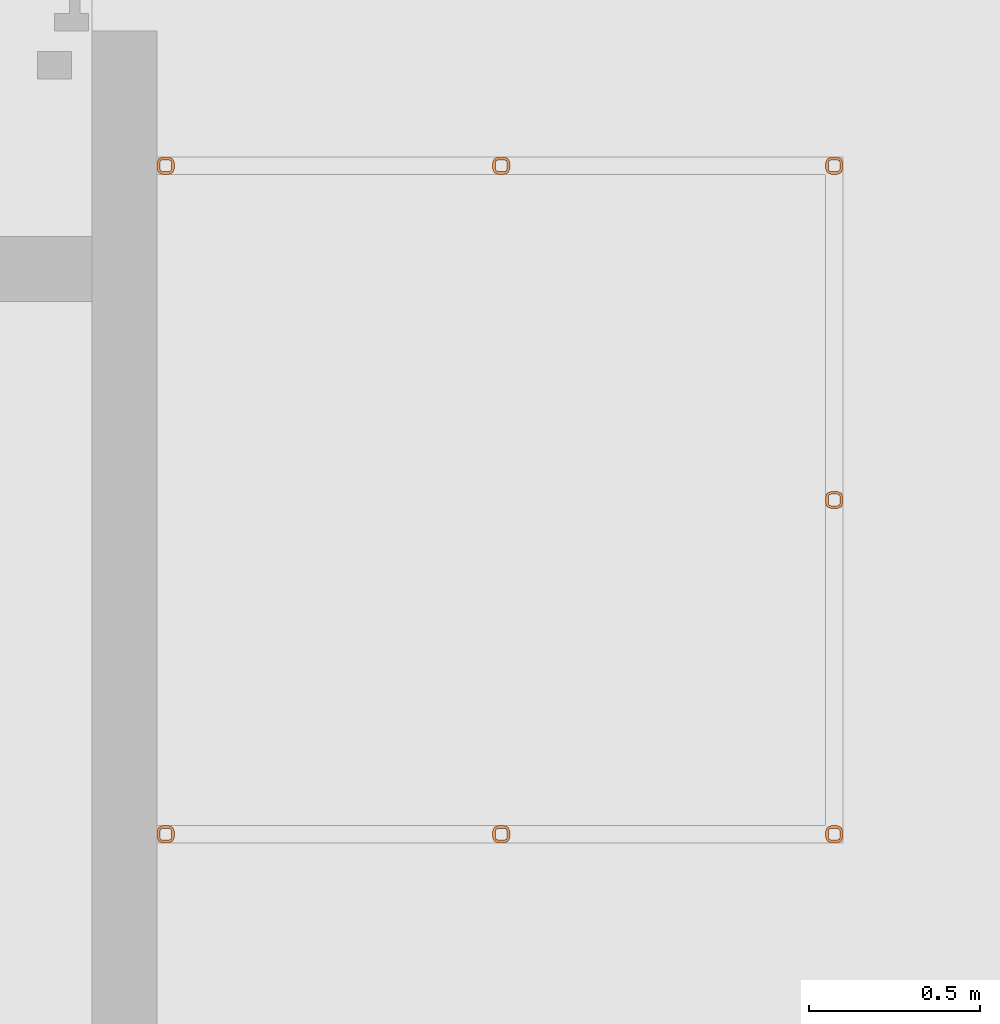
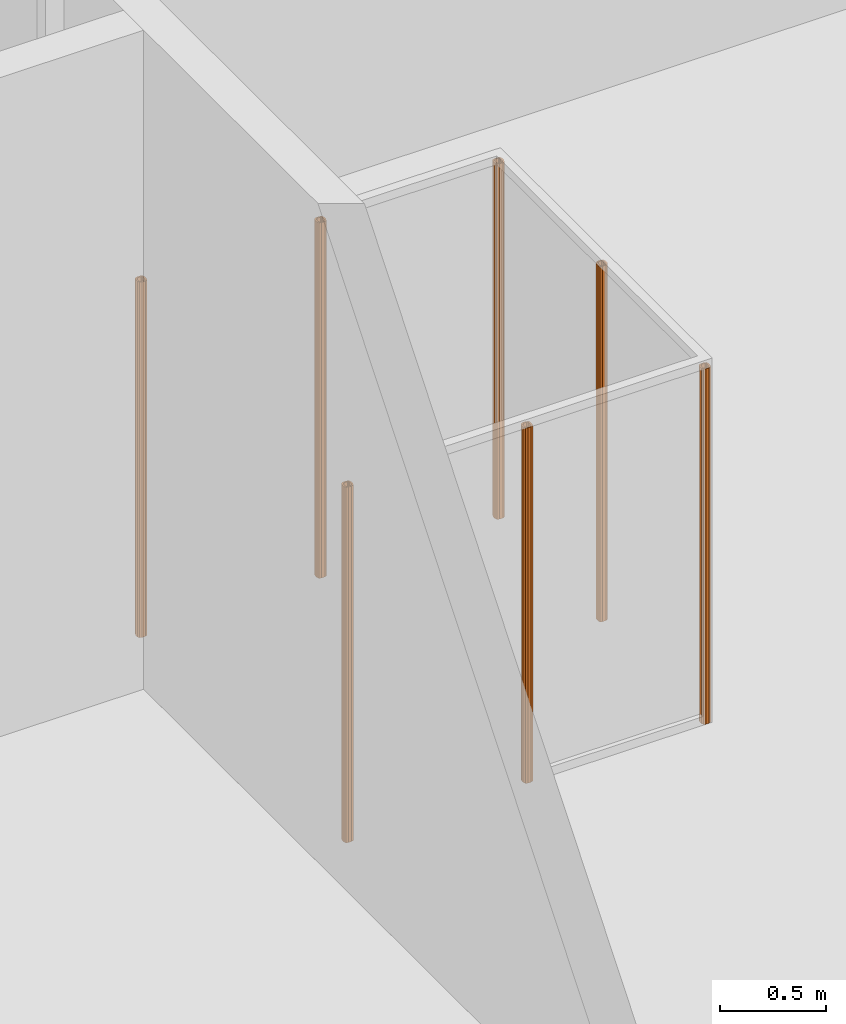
# One storey, part 64 of 112: 7 proxies.
"""IFC2X3 building model written with IfcOpenShell, lengths in millimetres."""

from ifc_helpers import new_model, entity, si_unit, converted_unit, derived_unit, money_unit, direction, frame, origin_with_axes, place, context, subcontext, project, spatial, faceted_brep, source, transform, mapped, material, type_object, element, save


model = new_model("IFC2X3")

# Units and contexts
model_context = context("Model", 3, precision=0.01, world=origin_with_axes(), true_north=direction((0.0, 1.0)))
body_context = subcontext(model_context, "Body", "Model", "MODEL_VIEW")
ifc_project = project(units=[si_unit("LENGTHUNIT", "METRE", prefix="MILLI"), si_unit("AREAUNIT", "SQUARE_METRE"), si_unit("VOLUMEUNIT", "CUBIC_METRE"), converted_unit("PLANEANGLEUNIT", "DEGREE", entity("IfcPlaneAngleMeasure", 0.0174532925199), si_unit("PLANEANGLEUNIT", "RADIAN"), dimensions=[0, 0, 0, 0, 0, 0, 0]), si_unit("SOLIDANGLEUNIT", "STERADIAN"), money_unit("EUR"), converted_unit("TIMEUNIT", "Year", entity("IfcTimeMeasure", 31556926.0), si_unit("TIMEUNIT", "SECOND"), dimensions=[0, 0, 1, 0, 0, 0, 0]), si_unit("MASSUNIT", "GRAM", prefix="KILO"), si_unit("THERMODYNAMICTEMPERATUREUNIT", "DEGREE_CELSIUS"), si_unit("LUMINOUSINTENSITYUNIT", "LUMEN"), si_unit("ENERGYUNIT", "JOULE", prefix="MEGA"), derived_unit("THERMALCONDUCTANCEUNIT", [(si_unit("POWERUNIT", "WATT"), 1), (si_unit("LENGTHUNIT", "METRE"), -1), (si_unit("THERMODYNAMICTEMPERATUREUNIT", "KELVIN"), -1)]), derived_unit("SPECIFICHEATCAPACITYUNIT", [(si_unit("ENERGYUNIT", "JOULE"), 1), (si_unit("MASSUNIT", "GRAM", prefix="KILO"), -1), (si_unit("THERMODYNAMICTEMPERATUREUNIT", "KELVIN"), -1)]), derived_unit("MASSDENSITYUNIT", [(si_unit("MASSUNIT", "GRAM", prefix="KILO"), 1), (si_unit("VOLUMEUNIT", "CUBIC_METRE"), -1)])], contexts=[model_context])

# Site, building, storey
site_placement = place(None, origin_with_axes())
site = spatial("IfcSite", under=ifc_project, at=site_placement, Name="Politse- ja Piirivalveameti ning Päästeameti ühishoone", CompositionType="ELEMENT")
building_placement = place(site_placement, origin_with_axes())
building = spatial("IfcBuilding", under=site, at=building_placement, Name="Politse- ja Piirivalveameti ning Päästeameti ühishoone", CompositionType="ELEMENT")
storey_placement = place(building_placement, origin_with_axes())
storey = spatial("IfcBuildingStorey", under=building, at=storey_placement, Name="Esimene korrus", CompositionType="ELEMENT", Elevation=0.0)

# Proxies
ifc_material = material(Name="ET-05_Teras")
building_element_proxy_type = type_object("IfcBuildingElementProxyType", Name="SHS Hot-Finished Column 23", PredefinedType="NOTDEFINED")
shared_shape_1 = source(origin_with_axes(), body_context, "Body", "Brep", [
    faceted_brep([(9.0, -25.0, 0.0), (9.0, -25.0, 2050.0), (-9.0, -25.0, 2050.0), (-9.0, -25.0, 0.0), (20.313708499, -20.313708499, 0.0), (20.313708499, -20.313708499, 2050.0), (25.0, -9.0, 2050.0), (25.0, 9.0, 2050.0), (20.313708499, 20.313708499, 2050.0), (9.0, 25.0, 2050.0), (-9.0, 25.0, 2050.0), (-20.313708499, 20.313708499, 2050.0), (-25.0, 9.0, 2050.0), (-25.0, -9.0, 2050.0), (-20.313708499, -20.313708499, 2050.0), (9.0, -17.0, 2050.0), (-9.0, -17.0, 2050.0), (-14.6568542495, -14.6568542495, 2050.0), (-17.0, -9.0, 2050.0), (-17.0, 9.0, 2050.0), (-14.6568542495, 14.6568542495, 2050.0), (-9.0, 17.0, 2050.0), (9.0, 17.0, 2050.0), (14.6568542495, 14.6568542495, 2050.0), (17.0, 9.0, 2050.0), (17.0, -9.0, 2050.0), (14.6568542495, -14.6568542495, 2050.0), (-20.313708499, -20.313708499, 0.0), (-25.0, -9.0, 0.0), (-25.0, 9.0, 0.0), (-20.313708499, 20.313708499, 0.0), (-9.0, 25.0, 0.0), (9.0, 25.0, 0.0), (20.313708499, 20.313708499, 0.0), (25.0, 9.0, 0.0), (25.0, -9.0, 0.0), (9.0, -17.0, 0.0), (14.6568542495, -14.6568542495, 0.0), (17.0, -9.0, 0.0), (17.0, 9.0, 0.0), (14.6568542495, 14.6568542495, 0.0), (9.0, 17.0, 0.0), (-9.0, 17.0, 0.0), (-14.6568542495, 14.6568542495, 0.0), (-17.0, 9.0, 0.0), (-17.0, -9.0, 0.0), (-14.6568542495, -14.6568542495, 0.0), (-9.0, -17.0, 0.0)], [[[0, 1, 2, 3]], [[4, 5, 1, 0]], [[1, 5, 6, 7, 8, 9, 10, 11, 12, 13, 14, 2], [15, 16, 17, 18, 19, 20, 21, 22, 23, 24, 25, 26]], [[3, 2, 14, 27]], [[0, 3, 27, 28, 29, 30, 31, 32, 33, 34, 35, 4], [36, 37, 38, 39, 40, 41, 42, 43, 44, 45, 46, 47]], [[35, 6, 5, 4]], [[34, 7, 6, 35]], [[33, 8, 7, 34]], [[32, 9, 8, 33]], [[31, 10, 9, 32]], [[30, 11, 10, 31]], [[29, 12, 11, 30]], [[28, 13, 12, 29]], [[27, 14, 13, 28]], [[47, 16, 15, 36]], [[46, 17, 16, 47]], [[45, 18, 17, 46]], [[44, 19, 18, 45]], [[43, 20, 19, 44]], [[42, 21, 20, 43]], [[41, 22, 21, 42]], [[40, 23, 22, 41]], [[39, 24, 23, 40]], [[38, 25, 24, 39]], [[37, 26, 25, 38]], [[36, 15, 26, 37]]]),
])
for number, where, z_axis, x_axis in (
    (1, (18615.0881145, 8576.76211508, 0.0), (0.0, 0.0, 1.0), (1.30049800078e-07, -1.0, 0.0)),
    (2, (20564.9193824, 8576.76211508, 0.0), (0.0, 0.0, 1.0), (1.30049800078e-07, -1.0, 0.0)),
    (3, (18615.0881145, 6626.76210858, 0.0), (0.0, 0.0, 1.0), (1.30049800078e-07, -1.0, 0.0)),
    (4, (20564.9193824, 6626.76210858, 0.0), (0.0, 0.0, 1.0), (1.30049800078e-07, -1.0, 0.0)),
    (5, (20564.9193824, 7601.76211183, 0.0), (0.0, 0.0, 1.0), (1.30049800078e-07, -1.0, 0.0)),
):
    element("IfcBuildingElementProxy", number, at=place(storey_placement, frame(where, z_axis=z_axis, x_axis=x_axis)), inside=storey, type_object=building_element_proxy_type, material=ifc_material, Name="Fassaadiribid", context=body_context, shape_type="MappedRepresentation", body=[
        mapped(shared_shape_1, transform((0.0, 0.0, 0.0))),
    ])
shared_shape_2 = source(origin_with_axes(), body_context, "Body", "Brep", [
    faceted_brep([(9.0, -25.0, 0.0), (9.0, -25.0, 2050.0), (-9.0, -25.0, 2050.0), (-9.0, -25.0, 0.0), (20.313708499, -20.313708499, 0.0), (20.313708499, -20.313708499, 2050.0), (25.0, -9.0, 2050.0), (25.0, 9.0, 2050.0), (20.313708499, 20.313708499, 2050.0), (9.0, 25.0, 2050.0), (-9.0, 25.0, 2050.0), (-20.313708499, 20.313708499, 2050.0), (-25.0, 9.0, 2050.0), (-25.0, -9.0, 2050.0), (-20.313708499, -20.313708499, 2050.0), (9.0, -17.0, 2050.0), (-9.0, -17.0, 2050.0), (-14.6568542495, -14.6568542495, 2050.0), (-17.0, -9.0, 2050.0), (-17.0, 9.0, 2050.0), (-14.6568542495, 14.6568542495, 2050.0), (-9.0, 17.0, 2050.0), (9.0, 17.0, 2050.0), (14.6568542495, 14.6568542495, 2050.0), (17.0, 9.0, 2050.0), (17.0, -9.0, 2050.0), (14.6568542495, -14.6568542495, 2050.0), (-20.313708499, -20.313708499, 0.0), (-25.0, -9.0, 0.0), (-25.0, 9.0, 0.0), (-20.313708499, 20.313708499, 0.0), (-9.0, 25.0, 0.0), (9.0, 25.0, 0.0), (20.313708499, 20.313708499, 0.0), (25.0, 9.0, 0.0), (25.0, -9.0, 0.0), (9.0, -17.0, 0.0), (14.6568542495, -14.6568542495, 0.0), (17.0, -9.0, 0.0), (17.0, 9.0, 0.0), (14.6568542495, 14.6568542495, 0.0), (9.0, 17.0, 0.0), (-9.0, 17.0, 0.0), (-14.6568542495, 14.6568542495, 0.0), (-17.0, 9.0, 0.0), (-17.0, -9.0, 0.0), (-14.6568542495, -14.6568542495, 0.0), (-9.0, -17.0, 0.0)], [[[0, 1, 2, 3]], [[4, 5, 1, 0]], [[1, 5, 6, 7, 8, 9, 10, 11, 12, 13, 14, 2], [15, 16, 17, 18, 19, 20, 21, 22, 23, 24, 25, 26]], [[3, 2, 14, 27]], [[0, 3, 27, 28, 29, 30, 31, 32, 33, 34, 35, 4], [36, 37, 38, 39, 40, 41, 42, 43, 44, 45, 46, 47]], [[35, 6, 5, 4]], [[34, 7, 6, 35]], [[33, 8, 7, 34]], [[32, 9, 8, 33]], [[31, 10, 9, 32]], [[30, 11, 10, 31]], [[29, 12, 11, 30]], [[28, 13, 12, 29]], [[27, 14, 13, 28]], [[47, 16, 15, 36]], [[46, 17, 16, 47]], [[45, 18, 17, 46]], [[44, 19, 18, 45]], [[43, 20, 19, 44]], [[42, 21, 20, 43]], [[41, 22, 21, 42]], [[40, 23, 22, 41]], [[39, 24, 23, 40]], [[38, 25, 24, 39]], [[37, 26, 25, 38]], [[36, 15, 26, 37]]]),
])
for number, where, z_axis, x_axis in (
    (6, (19593.8319846, 8576.76211508, 0.0), (0.0, 0.0, 1.0), (1.30049800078e-07, -1.0, 0.0)),
    (7, (19593.8319846, 6626.76210858, 0.0), (0.0, 0.0, 1.0), (1.30049800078e-07, -1.0, 0.0)),
):
    element("IfcBuildingElementProxy", number, at=place(storey_placement, frame(where, z_axis=z_axis, x_axis=x_axis)), inside=storey, type_object=building_element_proxy_type, material=ifc_material, Name="Fassaadiribid", context=body_context, shape_type="MappedRepresentation", body=[
        mapped(shared_shape_2, transform((0.0, 0.0, 0.0))),
    ])

save(model, "model.ifc")
